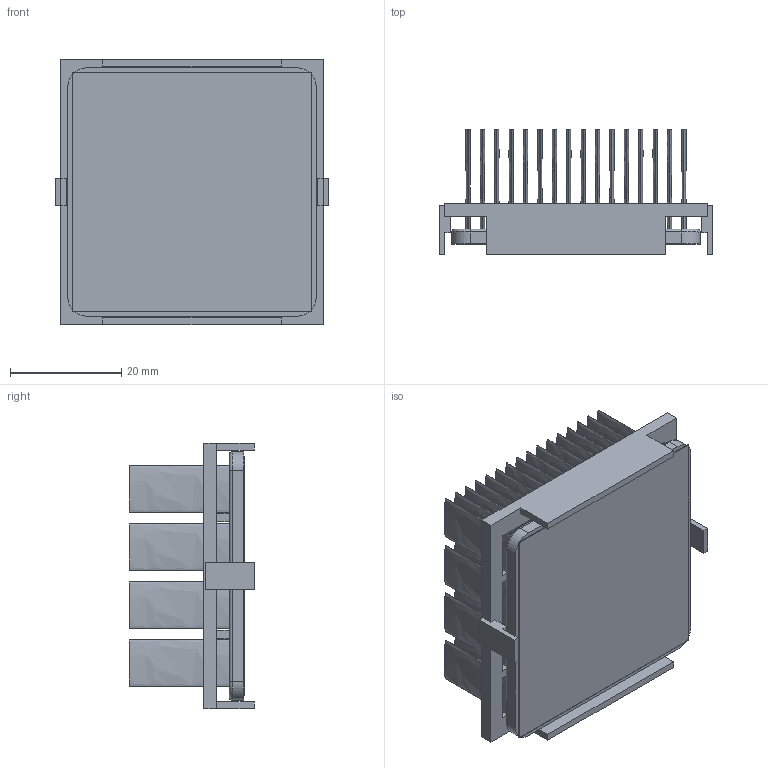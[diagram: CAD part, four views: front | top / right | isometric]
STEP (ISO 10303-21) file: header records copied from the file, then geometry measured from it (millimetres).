
FILE_DESCRIPTION (( 'STEP AP214' ), '1' );
FILE_NAME ('INM45001-21W-2.6BU.STEP', '2023-02-28T00:43:59', ( '' ), ( '' ), 'SwSTEP 2.0', 'SolidWorks 2020', '' );
FILE_SCHEMA (( 'AUTOMOTIVE_DESIGN' ));
Length unit declared in the file: inch
Products named in the file (1): INM45001-21W-2.6BU
Bounding box: 49.2 x 22.6 x 47.7 mm (x, y, z)
Volume: 13768.8 mm3; surface area: 31299.4 mm2
Topology: 3 solids, 3 shells, 274 faces, 604 edges, 400 vertices
Faces by surface type: plane 134, bspline 128, cylinder 8, torus 4
Entity records: 11396 total; most frequent: CARTESIAN_POINT 2943, ORIENTED_EDGE 1208, DIRECTION 662, EDGE_CURVE 604, VERTEX_POINT 400, EDGE_LOOP 340, VECTOR 328, LINE 328
